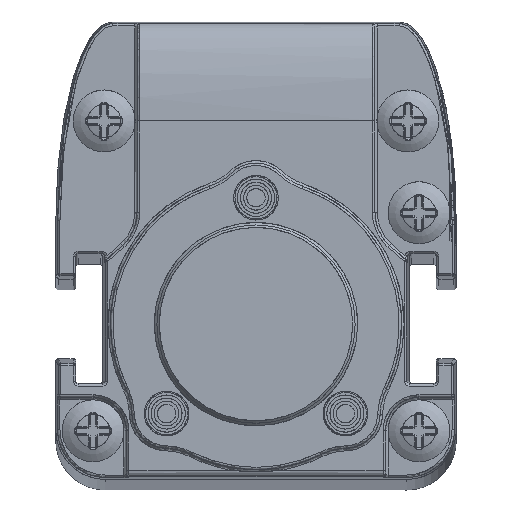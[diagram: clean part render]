
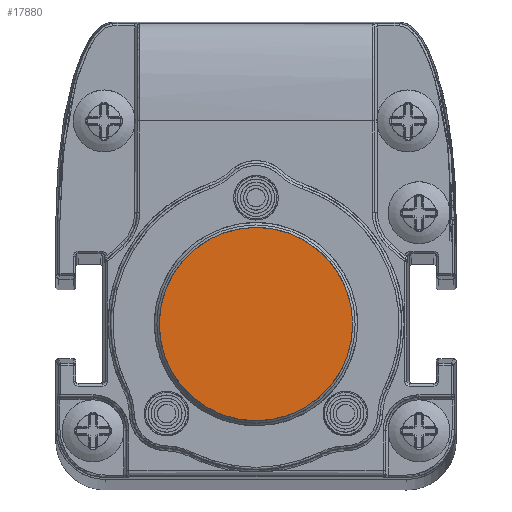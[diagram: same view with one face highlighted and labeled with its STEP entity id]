
A CAD part, top view. The second image highlights one B-rep face of the part: STEP entity #17880.
In plain terms, the highlighted planar face has unit normal (0, 0, 1).
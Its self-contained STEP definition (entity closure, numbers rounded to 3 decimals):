
#15141=B_SPLINE_CURVE_WITH_KNOTS('',3,(#62822,#62823,#62824,#62825,#62826,
#62827,#62828,#62829,#62830,#62831,#62832,#62833,#62834,#62835,#62836,#62837,
#62838,#62839,#62840,#62841,#62842,#62843,#62844,#62845,#62846,#62847,#62848,
#62849,#62850,#62851,#62852,#62853,#62854,#62855,#62856,#62857,#62858,#62859,
#62860,#62861,#62862,#62863,#62864,#62865,#62866,#62867,#62868,#62869,#62870,
#62871,#62872,#62873,#62874,#62875,#62876,#62877,#62878,#62879,#62880,#62881,
#62882,#62883,#62884,#62885,#62886,#62887,#62888,#62889,#62890,#62891,#62892,
#62893,#62894,#62895,#62896,#62897,#62898,#62899,#62900,#62901,#62902,#62903,
#62904,#62905,#62906,#62907,#62908,#62909,#62910,#62911,#62912,#62913,#62914,
#62915,#62916,#62917,#62918,#62919,#62920,#62921,#62922,#62923,#62924),
 .UNSPECIFIED.,.T.,.F.,(1,3,3,3,3,3,3,3,3,3,3,3,3,3,3,3,3,3,3,3,3,3,3,3,
3,3,3,3,3,3,3,3,3,3,3,3,1),(-0.029,0.,0.029,0.059,
0.088,0.118,0.147,0.176,
0.206,0.235,0.265,0.294,
0.324,0.353,0.382,0.412,
0.441,0.471,0.5,0.529,0.559,
0.588,0.618,0.647,0.676,
0.706,0.735,0.765,0.794,
0.824,0.853,0.882,0.912,
0.941,0.971,1.,1.029),.UNSPECIFIED.);
#17880=ADVANCED_FACE('',(#19865),#18778,.T.);
#18778=PLANE('',#43055);
#19865=FACE_OUTER_BOUND('',#21331,.T.);
#21331=EDGE_LOOP('',(#27572));
#27572=ORIENTED_EDGE('',*,*,#36461,.T.);
#31576=VERTEX_POINT('',#62925);
#36461=EDGE_CURVE('',#31576,#31576,#15141,.T.);
#43055=AXIS2_PLACEMENT_3D('',#62926,#46981,#46982);
#46981=DIRECTION('',(0.,0.,1.));
#46982=DIRECTION('',(1.,0.,0.));
#62822=CARTESIAN_POINT('',(7.8,0.,533.34));
#62823=CARTESIAN_POINT('',(7.8,0.465,533.34));
#62824=CARTESIAN_POINT('',(7.759,0.925,533.34));
#62825=CARTESIAN_POINT('',(7.679,1.376,533.34));
#62826=CARTESIAN_POINT('',(7.638,1.601,533.34));
#62827=CARTESIAN_POINT('',(7.588,1.825,533.34));
#62828=CARTESIAN_POINT('',(7.527,2.047,533.34));
#62829=CARTESIAN_POINT('',(7.466,2.269,533.34));
#62830=CARTESIAN_POINT('',(7.407,2.458,533.34));
#62831=CARTESIAN_POINT('',(7.315,2.708,533.34));
#62832=CARTESIAN_POINT('',(7.129,3.209,533.34));
#62833=CARTESIAN_POINT('',(6.898,3.683,533.34));
#62834=CARTESIAN_POINT('',(6.62,4.128,533.34));
#62835=CARTESIAN_POINT('',(6.343,4.573,533.34));
#62836=CARTESIAN_POINT('',(6.043,4.965,533.34));
#62837=CARTESIAN_POINT('',(5.651,5.376,533.34));
#62838=CARTESIAN_POINT('',(4.868,6.2,533.34));
#62839=CARTESIAN_POINT('',(3.912,6.837,533.34));
#62840=CARTESIAN_POINT('',(2.89,7.245,533.34));
#62841=CARTESIAN_POINT('',(2.378,7.449,533.34));
#62842=CARTESIAN_POINT('',(1.856,7.597,533.34));
#62843=CARTESIAN_POINT('',(1.324,7.689,533.34));
#62844=CARTESIAN_POINT('',(1.058,7.734,533.34));
#62845=CARTESIAN_POINT('',(0.79,7.766,533.34));
#62846=CARTESIAN_POINT('',(0.52,7.784,533.34));
#62847=CARTESIAN_POINT('',(0.249,7.801,533.34));
#62848=CARTESIAN_POINT('',(-0.055,7.804,533.34));
#62849=CARTESIAN_POINT('',(-0.3,7.794,533.34));
#62850=CARTESIAN_POINT('',(-0.79,7.775,533.34));
#62851=CARTESIAN_POINT('',(-1.271,7.712,533.34));
#62852=CARTESIAN_POINT('',(-1.742,7.604,533.34));
#62853=CARTESIAN_POINT('',(-2.213,7.496,533.34));
#62854=CARTESIAN_POINT('',(-2.713,7.327,533.34));
#62855=CARTESIAN_POINT('',(-3.123,7.147,533.34));
#62856=CARTESIAN_POINT('',(-3.534,6.968,533.34));
#62857=CARTESIAN_POINT('',(-3.924,6.757,533.34));
#62858=CARTESIAN_POINT('',(-4.293,6.513,533.34));
#62859=CARTESIAN_POINT('',(-4.477,6.392,533.34));
#62860=CARTESIAN_POINT('',(-4.656,6.262,533.34));
#62861=CARTESIAN_POINT('',(-4.83,6.125,533.34));
#62862=CARTESIAN_POINT('',(-5.004,5.987,533.34));
#62863=CARTESIAN_POINT('',(-5.15,5.864,533.34));
#62864=CARTESIAN_POINT('',(-5.337,5.688,533.34));
#62865=CARTESIAN_POINT('',(-5.712,5.337,533.34));
#62866=CARTESIAN_POINT('',(-6.047,4.956,533.34));
#62867=CARTESIAN_POINT('',(-6.341,4.545,533.34));
#62868=CARTESIAN_POINT('',(-6.635,4.134,533.34));
#62869=CARTESIAN_POINT('',(-6.869,3.738,533.34));
#62870=CARTESIAN_POINT('',(-7.102,3.226,533.34));
#62871=CARTESIAN_POINT('',(-7.567,2.203,533.34));
#62872=CARTESIAN_POINT('',(-7.8,1.124,533.34));
#62873=CARTESIAN_POINT('',(-7.8,0.,533.34));
#62874=CARTESIAN_POINT('',(-7.8,-0.562,533.34));
#62875=CARTESIAN_POINT('',(-7.742,-1.113,533.34));
#62876=CARTESIAN_POINT('',(-7.625,-1.651,533.34));
#62877=CARTESIAN_POINT('',(-7.509,-2.189,533.34));
#62878=CARTESIAN_POINT('',(-7.314,-2.758,533.34));
#62879=CARTESIAN_POINT('',(-7.102,-3.226,533.34));
#62880=CARTESIAN_POINT('',(-6.889,-3.694,533.34));
#62881=CARTESIAN_POINT('',(-6.636,-4.134,533.34));
#62882=CARTESIAN_POINT('',(-6.341,-4.544,533.34));
#62883=CARTESIAN_POINT('',(-6.194,-4.75,533.34));
#62884=CARTESIAN_POINT('',(-6.037,-4.947,533.34));
#62885=CARTESIAN_POINT('',(-5.87,-5.138,533.34));
#62886=CARTESIAN_POINT('',(-5.702,-5.329,533.34));
#62887=CARTESIAN_POINT('',(-5.5,-5.535,533.34));
#62888=CARTESIAN_POINT('',(-5.337,-5.688,533.34));
#62889=CARTESIAN_POINT('',(-5.01,-5.995,533.34));
#62890=CARTESIAN_POINT('',(-4.662,-6.27,533.34));
#62891=CARTESIAN_POINT('',(-4.293,-6.513,533.34));
#62892=CARTESIAN_POINT('',(-3.924,-6.756,533.34));
#62893=CARTESIAN_POINT('',(-3.573,-6.951,533.34));
#62894=CARTESIAN_POINT('',(-3.123,-7.147,533.34));
#62895=CARTESIAN_POINT('',(-2.674,-7.344,533.34));
#62896=CARTESIAN_POINT('',(-2.213,-7.496,533.34));
#62897=CARTESIAN_POINT('',(-1.743,-7.604,533.34));
#62898=CARTESIAN_POINT('',(-1.507,-7.658,533.34));
#62899=CARTESIAN_POINT('',(-1.269,-7.701,533.34));
#62900=CARTESIAN_POINT('',(-1.029,-7.732,533.34));
#62901=CARTESIAN_POINT('',(-0.789,-7.764,533.34));
#62902=CARTESIAN_POINT('',(-0.575,-7.784,533.34));
#62903=CARTESIAN_POINT('',(-0.3,-7.794,533.34));
#62904=CARTESIAN_POINT('',(0.801,-7.837,533.34));
#62905=CARTESIAN_POINT('',(1.834,-7.666,533.34));
#62906=CARTESIAN_POINT('',(2.89,-7.245,533.34));
#62907=CARTESIAN_POINT('',(3.417,-7.035,533.34));
#62908=CARTESIAN_POINT('',(3.912,-6.774,533.34));
#62909=CARTESIAN_POINT('',(4.372,-6.462,533.34));
#62910=CARTESIAN_POINT('',(4.833,-6.15,533.34));
#62911=CARTESIAN_POINT('',(5.283,-5.763,533.34));
#62912=CARTESIAN_POINT('',(5.651,-5.376,533.34));
#62913=CARTESIAN_POINT('',(6.019,-4.989,533.34));
#62914=CARTESIAN_POINT('',(6.342,-4.573,533.34));
#62915=CARTESIAN_POINT('',(6.62,-4.128,533.34));
#62916=CARTESIAN_POINT('',(6.759,-3.906,533.34));
#62917=CARTESIAN_POINT('',(6.886,-3.676,533.34));
#62918=CARTESIAN_POINT('',(7.002,-3.44,533.34));
#62919=CARTESIAN_POINT('',(7.117,-3.203,533.34));
#62920=CARTESIAN_POINT('',(7.234,-2.926,533.34));
#62921=CARTESIAN_POINT('',(7.315,-2.708,533.34));
#62922=CARTESIAN_POINT('',(7.638,-1.835,533.34));
#62923=CARTESIAN_POINT('',(7.8,-0.933,533.34));
#62924=CARTESIAN_POINT('',(7.8,0.,533.34));
#62925=CARTESIAN_POINT('',(7.8,0.,533.34));
#62926=CARTESIAN_POINT('',(-8.9,-8.81,533.34));
